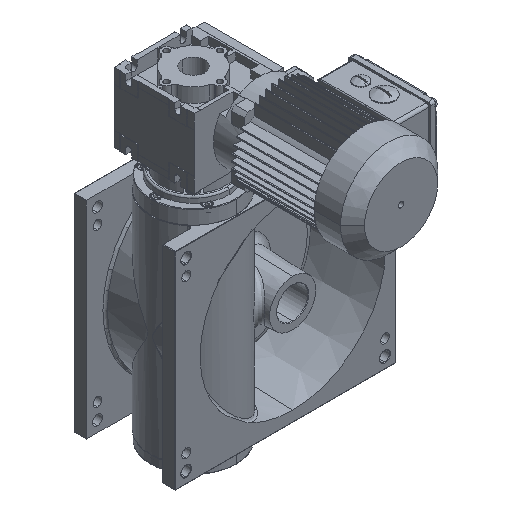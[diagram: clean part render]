
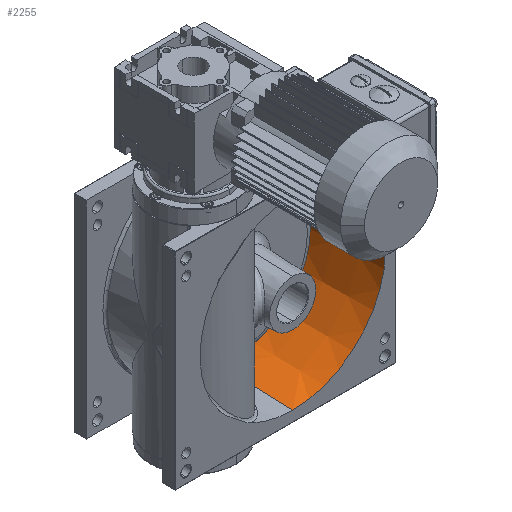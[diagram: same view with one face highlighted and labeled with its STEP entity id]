
A CAD part, isometric view. The second image highlights one B-rep face of the part: STEP entity #2255.
In plain terms, the highlighted conical face has half-angle 2 degrees and reference radius 104.105 mm.
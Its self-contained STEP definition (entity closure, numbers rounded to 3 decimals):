
#2255 = ADVANCED_FACE ( 'NONE', ( #41525 ), #31501, .F. ) ;
#3072 = DIRECTION ( 'NONE',  ( 0., -0.999, -0.035 ) ) ;
#3364 = VECTOR ( 'NONE', #62518, 1000. ) ;
#8775 = DIRECTION ( 'NONE',  ( 0., 1., 0. ) ) ;
#9488 = LINE ( 'NONE', #69742, #23107 ) ;
#10854 = CIRCLE ( 'NONE', #50364, 101.147 ) ;
#11016 = VERTEX_POINT ( 'NONE', #56004 ) ;
#12063 = CARTESIAN_POINT ( 'NONE',  ( 0., 84.705, -101.147 ) ) ;
#12682 = VERTEX_POINT ( 'NONE', #78320 ) ;
#18238 = EDGE_CURVE ( 'NONE', #48916, #12682, #9488, .T. ) ;
#18903 = EDGE_LOOP ( 'NONE', ( #62100, #61949, #58858, #26902 ) ) ;
#23107 = VECTOR ( 'NONE', #3072, 1000. ) ;
#25061 = CARTESIAN_POINT ( 'NONE',  ( 0., 84.705, 0. ) ) ;
#26902 = ORIENTED_EDGE ( 'NONE', *, *, #27303, .F. ) ;
#27303 = EDGE_CURVE ( 'NONE', #11016, #12682, #65806, .T. ) ;
#30159 = AXIS2_PLACEMENT_3D ( 'NONE', #71786, #41131, #34726 ) ;
#31039 = EDGE_CURVE ( 'NONE', #37321, #48916, #10854, .T. ) ;
#31091 = DIRECTION ( 'NONE',  ( 0., 0., 1. ) ) ;
#31501 = CONICAL_SURFACE ( 'NONE', #30159, 104.105, 0.035 ) ;
#33146 = EDGE_CURVE ( 'NONE', #37321, #11016, #56915, .T. ) ;
#34726 = DIRECTION ( 'NONE',  ( 0., 0., -1. ) ) ;
#37321 = VERTEX_POINT ( 'NONE', #43035 ) ;
#38196 = CARTESIAN_POINT ( 'NONE',  ( 0., 0., 104.105 ) ) ;
#41131 = DIRECTION ( 'NONE',  ( 0., -1., 0. ) ) ;
#41525 = FACE_OUTER_BOUND ( 'NONE', #18903, .T. ) ;
#43035 = CARTESIAN_POINT ( 'NONE',  ( 0., 84.705, 101.147 ) ) ;
#45181 = CARTESIAN_POINT ( 'NONE',  ( 0., 3., 0. ) ) ;
#47990 = AXIS2_PLACEMENT_3D ( 'NONE', #45181, #8775, #75832 ) ;
#48916 = VERTEX_POINT ( 'NONE', #12063 ) ;
#50364 = AXIS2_PLACEMENT_3D ( 'NONE', #25061, #55830, #31091 ) ;
#55830 = DIRECTION ( 'NONE',  ( 0., 1., 0. ) ) ;
#56004 = CARTESIAN_POINT ( 'NONE',  ( 0., 3., 104. ) ) ;
#56915 = LINE ( 'NONE', #38196, #3364 ) ;
#58858 = ORIENTED_EDGE ( 'NONE', *, *, #18238, .T. ) ;
#61949 = ORIENTED_EDGE ( 'NONE', *, *, #31039, .T. ) ;
#62100 = ORIENTED_EDGE ( 'NONE', *, *, #33146, .F. ) ;
#62518 = DIRECTION ( 'NONE',  ( 0., -0.999, 0.035 ) ) ;
#65806 = CIRCLE ( 'NONE', #47990, 104. ) ;
#69742 = CARTESIAN_POINT ( 'NONE',  ( 0., 0., -104.105 ) ) ;
#71786 = CARTESIAN_POINT ( 'NONE',  ( 0., 0., 0. ) ) ;
#75832 = DIRECTION ( 'NONE',  ( 0., 0., -1. ) ) ;
#78320 = CARTESIAN_POINT ( 'NONE',  ( 0., 3., -104. ) ) ;
